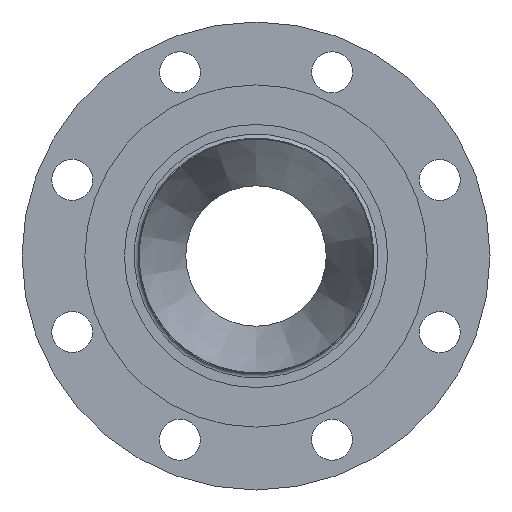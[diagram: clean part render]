
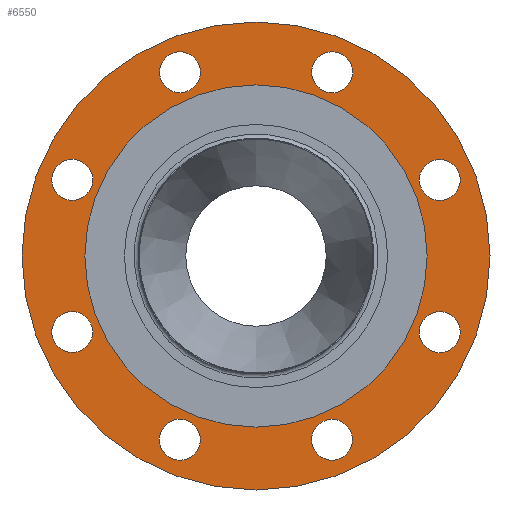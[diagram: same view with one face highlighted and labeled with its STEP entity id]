
A CAD part, front view. The second image highlights one B-rep face of the part: STEP entity #6550.
In plain terms, the highlighted planar face has unit normal (0, -1, 0) as drawn and (0, 1, 0) by its records, which use the part's own axes.
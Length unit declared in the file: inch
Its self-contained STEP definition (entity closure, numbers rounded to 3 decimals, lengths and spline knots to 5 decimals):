
#6211=CARTESIAN_POINT('',(-1.31705,0.6875,4.23585));
#6212=VERTEX_POINT('',#6211);
#6213=CARTESIAN_POINT('',(-1.6264,0.6875,3.92649));
#6214=DIRECTION('',(0.0,-1.0,0.0));
#6215=DIRECTION('',(0.707,0.0,0.707));
#6216=AXIS2_PLACEMENT_3D('',#6213,#6214,#6215);
#6217=CIRCLE('',#6216,0.4375);
#6218=EDGE_CURVE('',#6212,#6212,#6217,.T.);
#6239=CARTESIAN_POINT('',(-3.92649,0.6875,2.0639));
#6240=VERTEX_POINT('',#6239);
#6241=CARTESIAN_POINT('',(-3.92649,0.6875,1.6264));
#6242=DIRECTION('',(0.0,-1.0,0.0));
#6243=DIRECTION('',(0.0,0.0,1.0));
#6244=AXIS2_PLACEMENT_3D('',#6241,#6242,#6243);
#6245=CIRCLE('',#6244,0.4375);
#6246=EDGE_CURVE('',#6240,#6240,#6245,.T.);
#6267=CARTESIAN_POINT('',(-4.23585,0.6875,-1.31705));
#6268=VERTEX_POINT('',#6267);
#6269=CARTESIAN_POINT('',(-3.92649,0.6875,-1.6264));
#6270=DIRECTION('',(0.0,-1.0,0.0));
#6271=DIRECTION('',(-0.707,0.0,0.707));
#6272=AXIS2_PLACEMENT_3D('',#6269,#6270,#6271);
#6273=CIRCLE('',#6272,0.4375);
#6274=EDGE_CURVE('',#6268,#6268,#6273,.T.);
#6295=CARTESIAN_POINT('',(-2.0639,0.6875,-3.92649));
#6296=VERTEX_POINT('',#6295);
#6297=CARTESIAN_POINT('',(-1.6264,0.6875,-3.92649));
#6298=DIRECTION('',(0.0,-1.0,0.0));
#6299=DIRECTION('',(-1.0,0.0,0.0));
#6300=AXIS2_PLACEMENT_3D('',#6297,#6298,#6299);
#6301=CIRCLE('',#6300,0.4375);
#6302=EDGE_CURVE('',#6296,#6296,#6301,.T.);
#6323=CARTESIAN_POINT('',(1.31705,0.6875,-4.23585));
#6324=VERTEX_POINT('',#6323);
#6325=CARTESIAN_POINT('',(1.6264,0.6875,-3.92649));
#6326=DIRECTION('',(0.0,-1.0,0.0));
#6327=DIRECTION('',(-0.707,0.0,-0.707));
#6328=AXIS2_PLACEMENT_3D('',#6325,#6326,#6327);
#6329=CIRCLE('',#6328,0.4375);
#6330=EDGE_CURVE('',#6324,#6324,#6329,.T.);
#6351=CARTESIAN_POINT('',(3.92649,0.6875,-2.0639));
#6352=VERTEX_POINT('',#6351);
#6353=CARTESIAN_POINT('',(3.92649,0.6875,-1.6264));
#6354=DIRECTION('',(0.0,-1.0,0.0));
#6355=DIRECTION('',(0.0,0.0,-1.0));
#6356=AXIS2_PLACEMENT_3D('',#6353,#6354,#6355);
#6357=CIRCLE('',#6356,0.4375);
#6358=EDGE_CURVE('',#6352,#6352,#6357,.T.);
#6379=CARTESIAN_POINT('',(4.23585,0.6875,1.31705));
#6380=VERTEX_POINT('',#6379);
#6381=CARTESIAN_POINT('',(3.92649,0.6875,1.6264));
#6382=DIRECTION('',(0.0,-1.0,0.0));
#6383=DIRECTION('',(0.707,0.0,-0.707));
#6384=AXIS2_PLACEMENT_3D('',#6381,#6382,#6383);
#6385=CIRCLE('',#6384,0.4375);
#6386=EDGE_CURVE('',#6380,#6380,#6385,.T.);
#6407=CARTESIAN_POINT('',(2.0639,0.6875,3.92649));
#6408=VERTEX_POINT('',#6407);
#6409=CARTESIAN_POINT('',(1.6264,0.6875,3.92649));
#6410=DIRECTION('',(0.0,-1.0,0.0));
#6411=DIRECTION('',(1.0,0.0,0.0));
#6412=AXIS2_PLACEMENT_3D('',#6409,#6410,#6411);
#6413=CIRCLE('',#6412,0.4375);
#6414=EDGE_CURVE('',#6408,#6408,#6413,.T.);
#6435=CARTESIAN_POINT('',(3.65625,0.6875,0.));
#6436=VERTEX_POINT('',#6435);
#6437=CARTESIAN_POINT('',(0.0,0.6875,0.0));
#6438=DIRECTION('',(0.0,-1.0,0.0));
#6439=DIRECTION('',(-1.0,0.0,0.0));
#6440=AXIS2_PLACEMENT_3D('',#6437,#6438,#6439);
#6441=CIRCLE('',#6440,3.65625);
#6442=EDGE_CURVE('',#6436,#6436,#6441,.T.);
#6492=CARTESIAN_POINT('',(-5.0,0.6875,0.));
#6493=VERTEX_POINT('',#6492);
#6494=CARTESIAN_POINT('',(0.0,0.6875,0.0));
#6495=DIRECTION('',(0.0,-1.0,0.0));
#6496=DIRECTION('',(1.0,0.0,0.0));
#6497=AXIS2_PLACEMENT_3D('',#6494,#6495,#6496);
#6498=CIRCLE('',#6497,5.0);
#6499=EDGE_CURVE('',#6493,#6493,#6498,.T.);
#6515=CARTESIAN_POINT('',(0.0,0.6875,0.0));
#6516=DIRECTION('',(0.0,-1.0,0.0));
#6517=DIRECTION('',(0.0,0.0,-1.0));
#6518=AXIS2_PLACEMENT_3D('',#6515,#6516,#6517);
#6519=PLANE('',#6518);
#6520=ORIENTED_EDGE('',*,*,#6499,.F.);
#6521=EDGE_LOOP('',(#6520));
#6522=FACE_OUTER_BOUND('',#6521,.T.);
#6523=ORIENTED_EDGE('',*,*,#6218,.T.);
#6524=EDGE_LOOP('',(#6523));
#6525=FACE_BOUND('',#6524,.T.);
#6526=ORIENTED_EDGE('',*,*,#6246,.T.);
#6527=EDGE_LOOP('',(#6526));
#6528=FACE_BOUND('',#6527,.T.);
#6529=ORIENTED_EDGE('',*,*,#6274,.T.);
#6530=EDGE_LOOP('',(#6529));
#6531=FACE_BOUND('',#6530,.T.);
#6532=ORIENTED_EDGE('',*,*,#6302,.T.);
#6533=EDGE_LOOP('',(#6532));
#6534=FACE_BOUND('',#6533,.T.);
#6535=ORIENTED_EDGE('',*,*,#6330,.T.);
#6536=EDGE_LOOP('',(#6535));
#6537=FACE_BOUND('',#6536,.T.);
#6538=ORIENTED_EDGE('',*,*,#6358,.T.);
#6539=EDGE_LOOP('',(#6538));
#6540=FACE_BOUND('',#6539,.T.);
#6541=ORIENTED_EDGE('',*,*,#6386,.T.);
#6542=EDGE_LOOP('',(#6541));
#6543=FACE_BOUND('',#6542,.T.);
#6544=ORIENTED_EDGE('',*,*,#6414,.T.);
#6545=EDGE_LOOP('',(#6544));
#6546=FACE_BOUND('',#6545,.T.);
#6547=ORIENTED_EDGE('',*,*,#6442,.T.);
#6548=EDGE_LOOP('',(#6547));
#6549=FACE_BOUND('',#6548,.T.);
#6550=ADVANCED_FACE('',(#6522,#6525,#6528,#6531,#6534,#6537,#6540,#6543,#6546,#6549),#6519,.F.);
